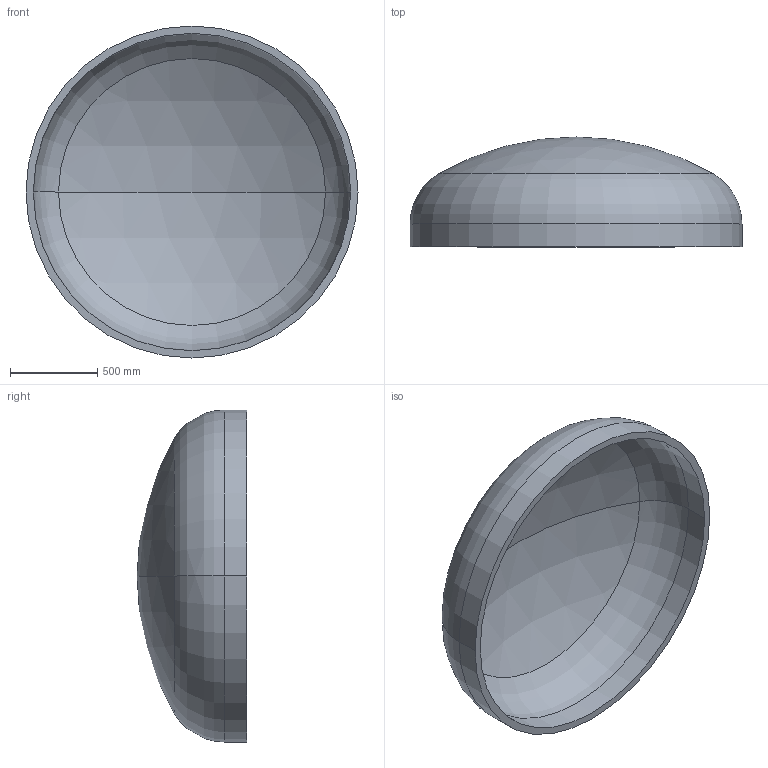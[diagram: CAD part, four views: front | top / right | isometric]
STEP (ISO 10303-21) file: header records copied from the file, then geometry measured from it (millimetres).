
FILE_DESCRIPTION (( 'STEP AP203' ), '1' );
FILE_NAME ('DIN 28013 Korbbogenform_-_Boden DIN 28013 - 1900 x 130 - I - s=42.step', '2016-07-01T13:09:25', ( '' ), ( '' ), 'SwSTEP 2.0', 'SolidWorks 2013', '' );
FILE_SCHEMA (( 'CONFIG_CONTROL_DESIGN' ));
Length unit declared in the file: millimetre
Products named in the file (1): DIN 28013 Korbbogenform_-_Boden DIN 28013 - 1900 x 130 - I - s=42
Bounding box: 1900 x 628.53 x 1900 mm (x, y, z)
Volume: 191790671.3 mm3; surface area: 9381738.1 mm2
Topology: 1 solids, 1 shells, 13 faces, 24 edges, 14 vertices
Faces by surface type: torus 4, cylinder 4, sphere 4, plane 1
Entity records: 407 total; most frequent: DIRECTION 72, CARTESIAN_POINT 52, ORIENTED_EDGE 48, AXIS2_PLACEMENT_3D 34, EDGE_CURVE 24, CIRCLE 20, EDGE_LOOP 14, VERTEX_POINT 14
